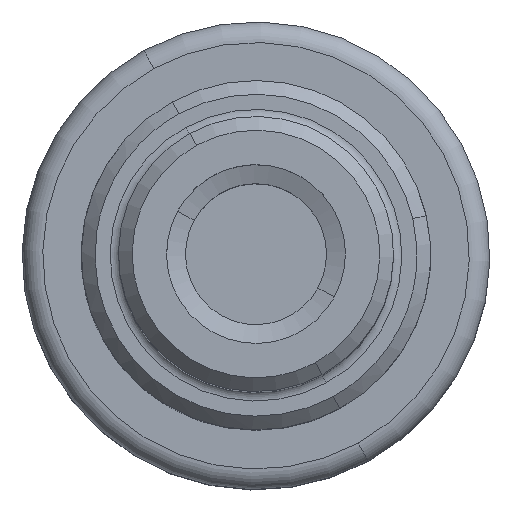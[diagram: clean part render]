
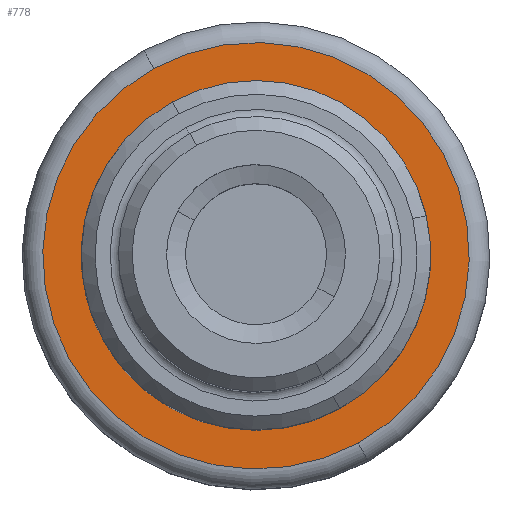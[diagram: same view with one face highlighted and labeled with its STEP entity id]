
A CAD part, top view. The second image highlights one B-rep face of the part: STEP entity #778.
In plain terms, the highlighted planar face has unit normal (0, 0, 1).
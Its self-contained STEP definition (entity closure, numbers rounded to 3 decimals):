
#729=AXIS2_PLACEMENT_3D('Circle Axis2P3D',#727,#728,$) ;
#741=AXIS2_PLACEMENT_3D('Circle Axis2P3D',#739,#740,$) ;
#754=AXIS2_PLACEMENT_3D('Plane Axis2P3D',#751,#752,#753) ;
#758=AXIS2_PLACEMENT_3D('Circle Axis2P3D',#756,#757,$) ;
#767=AXIS2_PLACEMENT_3D('Circle Axis2P3D',#765,#766,$) ;
#717=CARTESIAN_POINT('Vertex',(-5.993,-10.97,-73.5)) ;
#724=CARTESIAN_POINT('Vertex',(5.993,10.97,-73.5)) ;
#727=CARTESIAN_POINT('Axis2P3D Location',(0.,0.,-73.5)) ;
#739=CARTESIAN_POINT('Axis2P3D Location',(0.,0.,-73.5)) ;
#751=CARTESIAN_POINT('Axis2P3D Location',(0.,0.,-73.5)) ;
#756=CARTESIAN_POINT('Axis2P3D Location',(0.,0.,-73.5)) ;
#760=CARTESIAN_POINT('Vertex',(-7.431,13.603,-73.5)) ;
#762=CARTESIAN_POINT('Vertex',(7.431,-13.603,-73.5)) ;
#765=CARTESIAN_POINT('Axis2P3D Location',(0.,0.,-73.5)) ;
#728=DIRECTION('Axis2P3D Direction',(0.,0.,-1.)) ;
#740=DIRECTION('Axis2P3D Direction',(0.,0.,-1.)) ;
#752=DIRECTION('Axis2P3D Direction',(0.,0.,1.)) ;
#753=DIRECTION('Axis2P3D XDirection',(1.,0.,0.)) ;
#757=DIRECTION('Axis2P3D Direction',(0.,0.,1.)) ;
#766=DIRECTION('Axis2P3D Direction',(0.,0.,1.)) ;
#771=ORIENTED_EDGE('',*,*,#764,.T.) ;
#772=ORIENTED_EDGE('',*,*,#769,.T.) ;
#775=ORIENTED_EDGE('',*,*,#731,.F.) ;
#776=ORIENTED_EDGE('',*,*,#743,.F.) ;
#777=FACE_BOUND('',#774,.T.) ;
#778=ADVANCED_FACE('NOCUT',(#773,#777),#755,.T.) ;
#730=CIRCLE('generated circle',#729,12.5) ;
#742=CIRCLE('generated circle',#741,12.5) ;
#759=CIRCLE('generated circle',#758,15.5) ;
#768=CIRCLE('generated circle',#767,15.5) ;
#731=EDGE_CURVE('',#725,#718,#730,.F.) ;
#743=EDGE_CURVE('',#718,#725,#742,.F.) ;
#764=EDGE_CURVE('',#761,#763,#759,.T.) ;
#769=EDGE_CURVE('',#763,#761,#768,.T.) ;
#770=EDGE_LOOP('',(#771,#772)) ;
#774=EDGE_LOOP('',(#775,#776)) ;
#773=FACE_OUTER_BOUND('',#770,.T.) ;
#755=PLANE('',#754) ;
#718=VERTEX_POINT('',#717) ;
#725=VERTEX_POINT('',#724) ;
#761=VERTEX_POINT('',#760) ;
#763=VERTEX_POINT('',#762) ;
